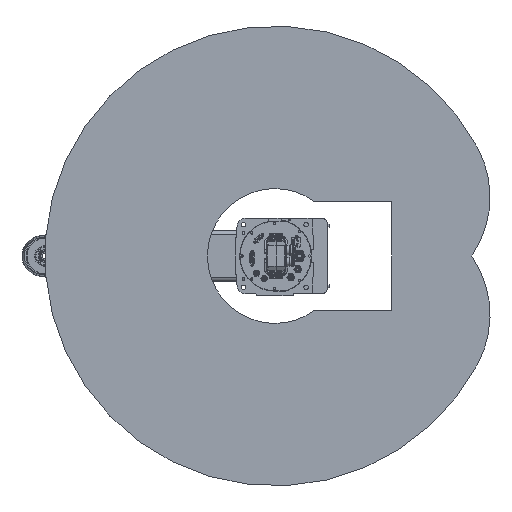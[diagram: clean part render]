
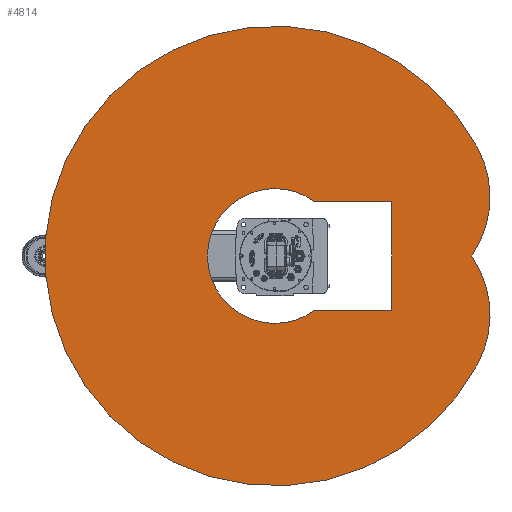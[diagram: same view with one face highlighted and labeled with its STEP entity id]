
A CAD part, front view. The second image highlights one B-rep face of the part: STEP entity #4814.
In plain terms, the highlighted planar face has unit normal (0, -1, 0).
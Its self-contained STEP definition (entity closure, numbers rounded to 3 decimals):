
#4814 = ADVANCED_FACE( '', ( #12413, #12414 ), #12415, .F. );
#12413 = FACE_OUTER_BOUND( '', #23938, .T. );
#12414 = FACE_BOUND( '', #23939, .T. );
#12415 = PLANE( '', #23940 );
#23938 = EDGE_LOOP( '', ( #38969, #38970, #38971 ) );
#23939 = EDGE_LOOP( '', ( #38972, #38973, #38974, #38975 ) );
#23940 = AXIS2_PLACEMENT_3D( '', #38976, #38977, #38978 );
#38969 = ORIENTED_EDGE( '', *, *, #63693, .F. );
#38970 = ORIENTED_EDGE( '', *, *, #63639, .F. );
#38971 = ORIENTED_EDGE( '', *, *, #63694, .F. );
#38972 = ORIENTED_EDGE( '', *, *, #63695, .T. );
#38973 = ORIENTED_EDGE( '', *, *, #61589, .T. );
#38974 = ORIENTED_EDGE( '', *, *, #63696, .T. );
#38975 = ORIENTED_EDGE( '', *, *, #63383, .T. );
#38976 = CARTESIAN_POINT( '', ( 70.421, 0., 132.442 ) );
#38977 = DIRECTION( '', ( 0., 1., 0. ) );
#38978 = DIRECTION( '', ( 0., 0., 1. ) );
#61589 = EDGE_CURVE( '', #72526, #72527, #72528, .T. );
#63383 = EDGE_CURVE( '', #75586, #75584, #75587, .T. );
#63639 = EDGE_CURVE( '', #76011, #76012, #76013, .T. );
#63693 = EDGE_CURVE( '', #76012, #76097, #76098, .T. );
#63694 = EDGE_CURVE( '', #76097, #76011, #76099, .T. );
#63695 = EDGE_CURVE( '', #75584, #72526, #76100, .T. );
#63696 = EDGE_CURVE( '', #72527, #75586, #76101, .T. );
#72526 = VERTEX_POINT( '', #88909 );
#72527 = VERTEX_POINT( '', #88910 );
#72528 = LINE( '', #88911, #88912 );
#75584 = VERTEX_POINT( '', #93834 );
#75586 = VERTEX_POINT( '', #93837 );
#75587 = CIRCLE( '', #93838, 161.22 );
#76011 = VERTEX_POINT( '', #94681 );
#76012 = VERTEX_POINT( '', #94682 );
#76013 = CIRCLE( '', #94683, 250. );
#76097 = VERTEX_POINT( '', #94784 );
#76098 = CIRCLE( '', #94785, 250. );
#76099 = CIRCLE( '', #94786, 550. );
#76100 = LINE( '', #94787, #94788 );
#76101 = LINE( '', #94789, #94790 );
#88909 = CARTESIAN_POINT( '', ( -130., 0., 280. ) );
#88910 = CARTESIAN_POINT( '', ( 130., 0., 280. ) );
#88911 = CARTESIAN_POINT( '', ( -130., 0., 280. ) );
#88912 = VECTOR( '', #112922, 1000. );
#93834 = CARTESIAN_POINT( '', ( -130., 0., 95.351 ) );
#93837 = CARTESIAN_POINT( '', ( 130., 0., 95.351 ) );
#93838 = AXIS2_PLACEMENT_3D( '', #115236, #115237, #115238 );
#94681 = CARTESIAN_POINT( '', ( -258.209, 0., 485.621 ) );
#94682 = CARTESIAN_POINT( '', ( 0., 0., 471.436 ) );
#94683 = AXIS2_PLACEMENT_3D( '', #115542, #115543, #115544 );
#94784 = CARTESIAN_POINT( '', ( 258.209, 0., 485.621 ) );
#94785 = AXIS2_PLACEMENT_3D( '', #115628, #115629, #115630 );
#94786 = AXIS2_PLACEMENT_3D( '', #115631, #115632, #115633 );
#94787 = CARTESIAN_POINT( '', ( -130., 0., 0. ) );
#94788 = VECTOR( '', #115634, 1000. );
#94789 = CARTESIAN_POINT( '', ( 130., 0., 280. ) );
#94790 = VECTOR( '', #115635, 1000. );
#112922 = DIRECTION( '', ( 1., 0., 0. ) );
#115236 = CARTESIAN_POINT( '', ( 0., 0., 0. ) );
#115237 = DIRECTION( '', ( 0., 1., 0. ) );
#115238 = DIRECTION( '', ( 1., 0., 0. ) );
#115542 = CARTESIAN_POINT( '', ( -140.841, 0., 264.884 ) );
#115543 = DIRECTION( '', ( 0., 1., 0. ) );
#115544 = DIRECTION( '', ( 1., 0., 0. ) );
#115628 = CARTESIAN_POINT( '', ( 140.841, 0., 264.884 ) );
#115629 = DIRECTION( '', ( 0., 1., 0. ) );
#115630 = DIRECTION( '', ( 1., 0., 0. ) );
#115631 = CARTESIAN_POINT( '', ( 0., 0., 0. ) );
#115632 = DIRECTION( '', ( 0., 1., 0. ) );
#115633 = DIRECTION( '', ( 1., 0., 0. ) );
#115634 = DIRECTION( '', ( 0., 0., 1. ) );
#115635 = DIRECTION( '', ( 0., 0., -1. ) );
